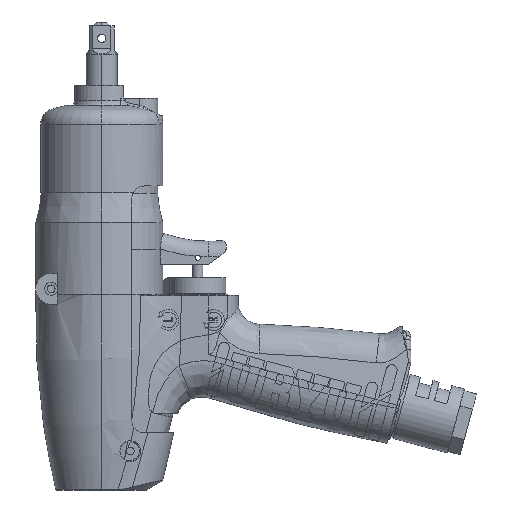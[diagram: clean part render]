
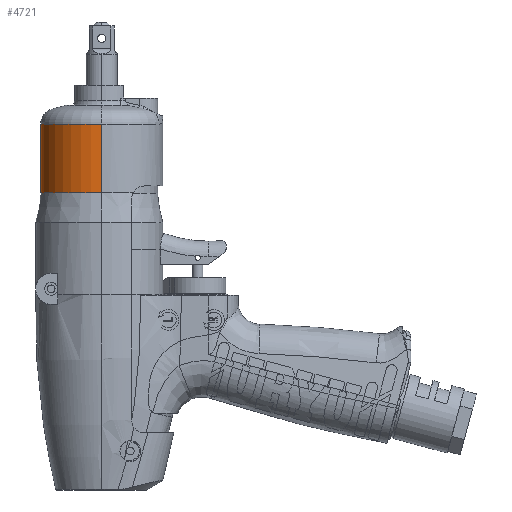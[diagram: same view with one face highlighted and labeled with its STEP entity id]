
A CAD part, left-side view. The second image highlights one B-rep face of the part: STEP entity #4721.
In plain terms, the highlighted cylindrical face has radius 23.5 mm (diameter 47 mm), a partial arc.
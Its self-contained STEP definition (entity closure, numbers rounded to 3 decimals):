
#548 = DIRECTION ( 'NONE',  ( 0., 0., -1. ) ) ;
#839 = VECTOR ( 'NONE', #17602, 1000. ) ;
#1173 = EDGE_CURVE ( 'NONE', #12756, #50432, #46577, .T. ) ;
#2470 = CARTESIAN_POINT ( 'NONE',  ( 23.5, 0., -33.017 ) ) ;
#4721 = ADVANCED_FACE ( 'NONE', ( #16566 ), #27004, .T. ) ;
#5782 = ORIENTED_EDGE ( 'NONE', *, *, #53783, .F. ) ;
#5829 = CARTESIAN_POINT ( 'NONE',  ( 23.5, 0., -18. ) ) ;
#6637 = AXIS2_PLACEMENT_3D ( 'NONE', #56251, #25277, #16339 ) ;
#11123 = CARTESIAN_POINT ( 'NONE',  ( 23.5, 0., -59.482 ) ) ;
#12335 = CIRCLE ( 'NONE', #24584, 23.5 ) ;
#12756 = VERTEX_POINT ( 'NONE', #39368 ) ;
#15523 = ORIENTED_EDGE ( 'NONE', *, *, #1173, .T. ) ;
#16339 = DIRECTION ( 'NONE',  ( 1., 0., 0. ) ) ;
#16566 = FACE_OUTER_BOUND ( 'NONE', #28463, .T. ) ;
#17602 = DIRECTION ( 'NONE',  ( 0., 0., 1. ) ) ;
#20217 = AXIS2_PLACEMENT_3D ( 'NONE', #27098, #548, #31560 ) ;
#21707 = DIRECTION ( 'NONE',  ( 0., 0., 1. ) ) ;
#23479 = CARTESIAN_POINT ( 'NONE',  ( -23.5, 0., -33.017 ) ) ;
#23850 = DIRECTION ( 'NONE',  ( 0., 0., 1. ) ) ;
#24584 = AXIS2_PLACEMENT_3D ( 'NONE', #48260, #21707, #52741 ) ;
#25277 = DIRECTION ( 'NONE',  ( 0., 0., 1. ) ) ;
#27004 = CYLINDRICAL_SURFACE ( 'NONE', #6637, 23.5 ) ;
#27098 = CARTESIAN_POINT ( 'NONE',  ( 0., 0., -33.017 ) ) ;
#28340 = ORIENTED_EDGE ( 'NONE', *, *, #32004, .T. ) ;
#28463 = EDGE_LOOP ( 'NONE', ( #49010, #15523, #28340, #5782 ) ) ;
#31560 = DIRECTION ( 'NONE',  ( 1., 0., 0. ) ) ;
#32004 = EDGE_CURVE ( 'NONE', #50432, #38391, #46041, .T. ) ;
#38391 = VERTEX_POINT ( 'NONE', #2470 ) ;
#39368 = CARTESIAN_POINT ( 'NONE',  ( -23.5, 0., -59.482 ) ) ;
#39736 = CARTESIAN_POINT ( 'NONE',  ( -23.5, 0., -18. ) ) ;
#42789 = LINE ( 'NONE', #5829, #47083 ) ;
#43046 = VERTEX_POINT ( 'NONE', #11123 ) ;
#46041 = CIRCLE ( 'NONE', #20217, 23.5 ) ;
#46577 = LINE ( 'NONE', #39736, #839 ) ;
#47083 = VECTOR ( 'NONE', #23850, 1000. ) ;
#48260 = CARTESIAN_POINT ( 'NONE',  ( 0., 0., -59.482 ) ) ;
#49010 = ORIENTED_EDGE ( 'NONE', *, *, #55322, .T. ) ;
#50432 = VERTEX_POINT ( 'NONE', #23479 ) ;
#52741 = DIRECTION ( 'NONE',  ( -1., 0., 0. ) ) ;
#53783 = EDGE_CURVE ( 'NONE', #43046, #38391, #42789, .T. ) ;
#55322 = EDGE_CURVE ( 'NONE', #43046, #12756, #12335, .T. ) ;
#56251 = CARTESIAN_POINT ( 'NONE',  ( 0., 0., -18. ) ) ;
